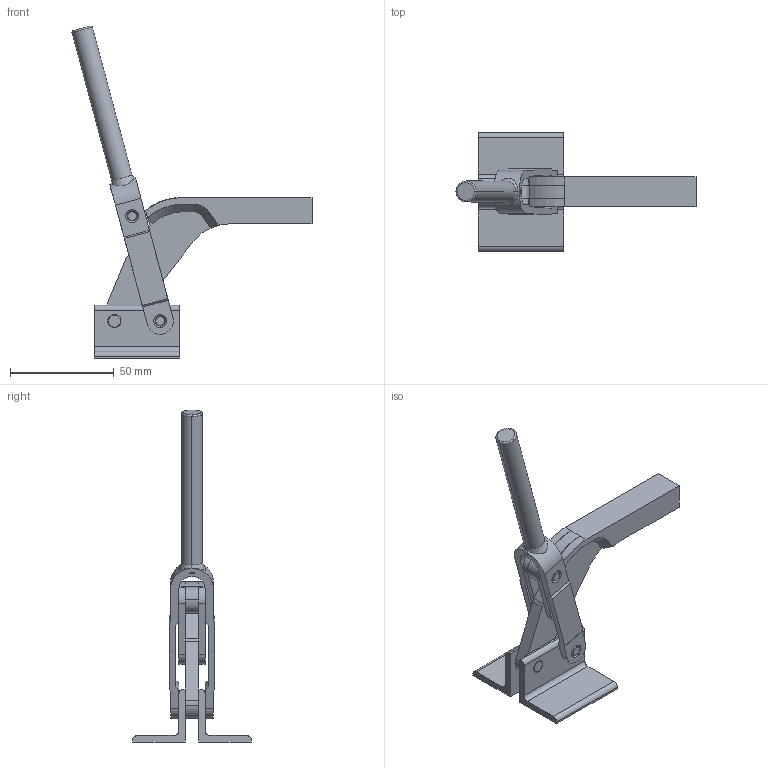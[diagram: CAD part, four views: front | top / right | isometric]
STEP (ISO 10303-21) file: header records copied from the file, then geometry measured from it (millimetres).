
FILE_DESCRIPTION( ( '' ), '1' );
FILE_NAME( 'C:\Documents and Settings\Richard Grenzke\My Documents\Wolverine Company Data\WOLVERINE CD 5_17_05\SOLIDS STEP\hold_down\cq1105a.stp', ' ', ( '' ), ( '' ), 'ACIS Interop R16', 'Kubotek KeyCreator V5.5.1 (0454)', ' ' );
FILE_SCHEMA( ( 'CONFIG_CONTROL_DESIGN' ) );
Length unit declared in the file: inch
Products named in the file (12): 1; 2; 3; 4; 5; 6; 7; 8; 9; 10; 11; 12
Bounding box: 115.67 x 57.15 x 160 mm (x, y, z)
Volume: 49825.9 mm3; surface area: 28236.3 mm2
Topology: 11 solids, 11 shells, 186 faces, 460 edges, 298 vertices
Faces by surface type: plane 83, cylinder 71, cone 26, sphere 4, torus 2
Entity records: 6213 total; most frequent: CARTESIAN_POINT 1076, DIRECTION 1022, ORIENTED_EDGE 920, EDGE_CURVE 460, AXIS2_PLACEMENT_3D 380, VERTEX_POINT 298, LINE 262, VECTOR 262
